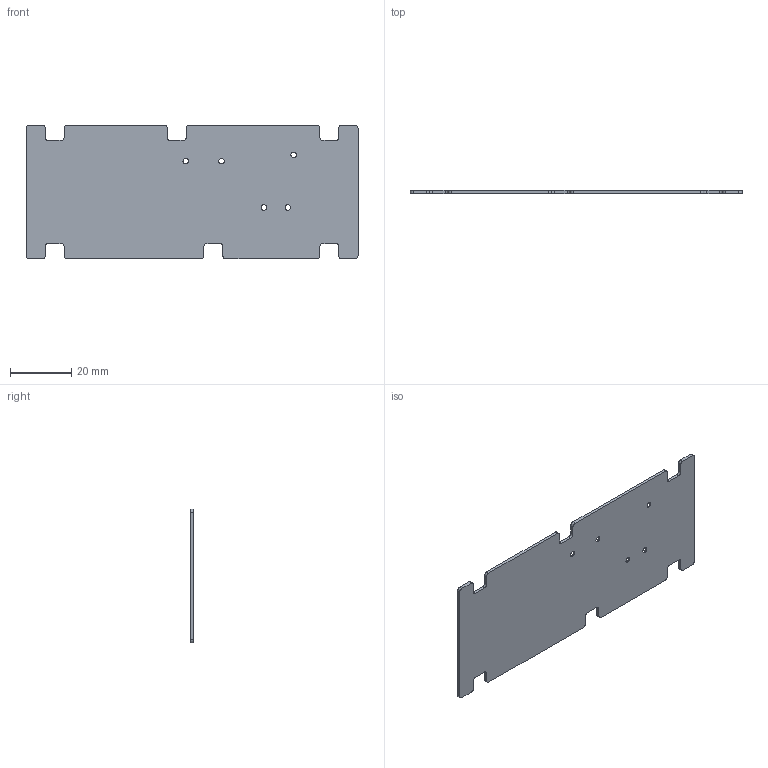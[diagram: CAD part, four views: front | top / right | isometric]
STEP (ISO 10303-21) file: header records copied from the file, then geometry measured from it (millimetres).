
FILE_DESCRIPTION (( 'STEP AP214' ), '1' );
FILE_NAME ('0.1-20GHz狟曹け狟裔啣.STEP', '2026-09-04T07:55:14', ( 'China' ), ( 'Microsoft' ), 'SwSTEP 2.0', 'SolidWorks 2024', '' );
FILE_SCHEMA (( 'AUTOMOTIVE_DESIGN' ));
Length unit declared in the file: millimetre
Products named in the file (1): 0.1-20GHz下变频下盖板
Bounding box: 108.8 x 1 x 43.8 mm (x, y, z)
Volume: 4557.1 mm3; surface area: 9504.8 mm2
Topology: 1 solids, 1 shells, 78 faces, 218 edges, 142 vertices
Faces by surface type: cylinder 38, plane 30, cone 10
Entity records: 2571 total; most frequent: DIRECTION 462, CARTESIAN_POINT 439, ORIENTED_EDGE 436, EDGE_CURVE 218, AXIS2_PLACEMENT_3D 165, VERTEX_POINT 142, VECTOR 132, LINE 132
